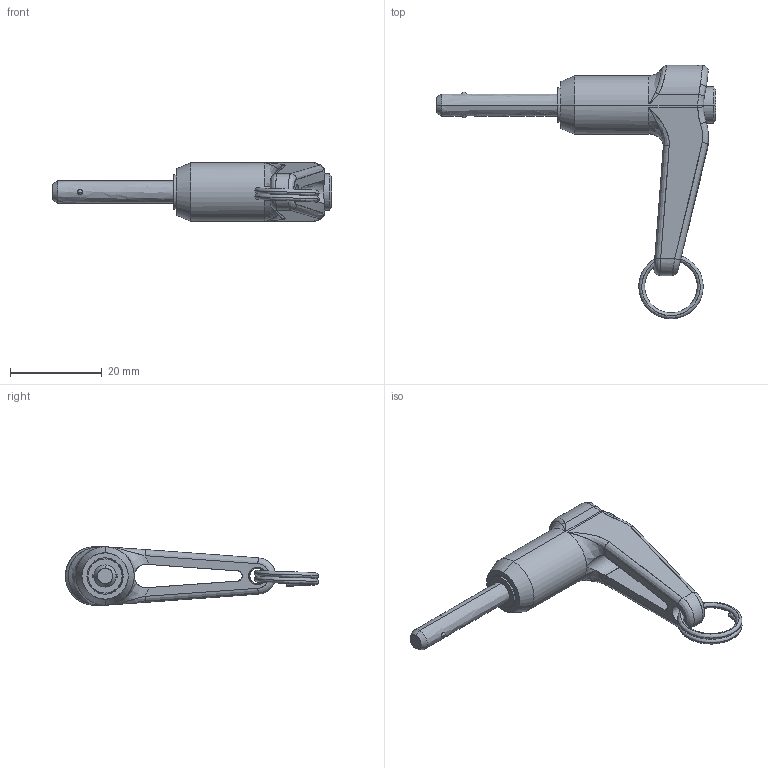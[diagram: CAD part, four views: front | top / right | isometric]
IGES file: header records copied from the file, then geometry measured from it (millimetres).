
Start section: SolidWorks IGES file using analytic representation for surfaces
Global section: file name: C:\Documents and Settings\IANO\My Documents\Wix and Auto CAD Work\CAD Models\Parametric Models\Wix Models\30000\33620_v2\33620_v2_20160606_IGES\33620.A008.igs; native system: SolidWorks 2009; preprocessor: SolidWorks 2009; author: IANO; date: 160615.125605; units: inch
Bounding box: 60.79 x 55.09 x 12.7 mm (x, y, z)
Surface area: 5070.1 mm2 (no closed solid volume)
Topology: 0 solids, 0 shells, 83 faces, 1168 edges, 1166 vertices
Faces by surface type: bspline 53, revolution 30
